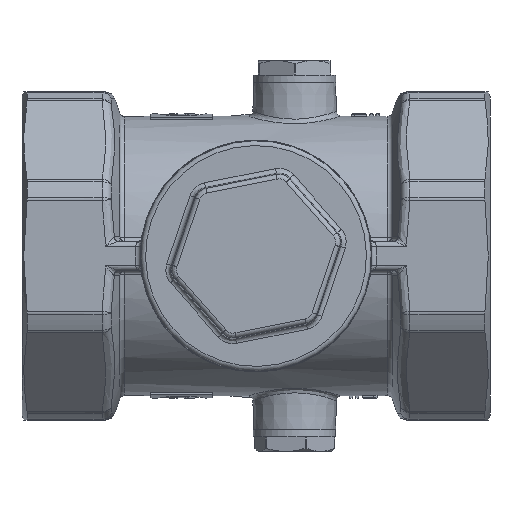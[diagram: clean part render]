
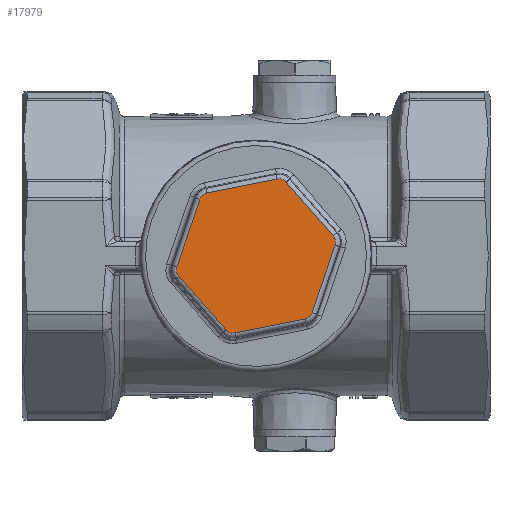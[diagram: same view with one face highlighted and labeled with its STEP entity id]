
A CAD part, front view. The second image highlights one B-rep face of the part: STEP entity #17979.
In plain terms, the highlighted planar face has unit normal (0, -1, 0).
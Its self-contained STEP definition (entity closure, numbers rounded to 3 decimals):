
#145=ELLIPSE('',#19668,2.002,2.);
#148=ELLIPSE('',#19672,2.002,2.);
#149=ELLIPSE('',#19678,2.002,2.);
#152=ELLIPSE('',#19682,2.002,2.);
#153=ELLIPSE('',#19688,2.002,2.);
#156=ELLIPSE('',#19692,2.002,2.);
#1762=LINE('',#40264,#2900);
#1764=LINE('',#40332,#2902);
#1767=LINE('',#40339,#2905);
#1768=LINE('',#40404,#2906);
#1771=LINE('',#40411,#2909);
#1773=LINE('',#40474,#2911);
#2900=VECTOR('',#24129,10.);
#2902=VECTOR('',#24149,10.);
#2905=VECTOR('',#24156,10.);
#2906=VECTOR('',#24173,10.);
#2909=VECTOR('',#24180,10.);
#2911=VECTOR('',#24196,10.);
#3494=PLANE('',#19703);
#4809=FACE_OUTER_BOUND('',#5927,.T.);
#5927=EDGE_LOOP('',(#16753,#16754,#16755,#16756,#16757,#16758,#16759,#16760,
#16761,#16762,#16763,#16764));
#8877=VERTEX_POINT('',#40261);
#8878=VERTEX_POINT('',#40263);
#8881=VERTEX_POINT('',#40294);
#8882=VERTEX_POINT('',#40323);
#8885=VERTEX_POINT('',#40330);
#8886=VERTEX_POINT('',#40335);
#8889=VERTEX_POINT('',#40366);
#8890=VERTEX_POINT('',#40395);
#8893=VERTEX_POINT('',#40402);
#8894=VERTEX_POINT('',#40407);
#8897=VERTEX_POINT('',#40438);
#8898=VERTEX_POINT('',#40467);
#11484=EDGE_CURVE('',#8877,#8878,#1762,.T.);
#11488=EDGE_CURVE('',#8881,#8877,#145,.T.);
#11492=EDGE_CURVE('',#8878,#8882,#148,.T.);
#11494=EDGE_CURVE('',#8885,#8881,#1764,.T.);
#11498=EDGE_CURVE('',#8882,#8886,#1767,.T.);
#11500=EDGE_CURVE('',#8889,#8885,#149,.T.);
#11504=EDGE_CURVE('',#8886,#8890,#152,.T.);
#11506=EDGE_CURVE('',#8893,#8889,#1768,.T.);
#11510=EDGE_CURVE('',#8890,#8894,#1771,.T.);
#11512=EDGE_CURVE('',#8897,#8893,#153,.T.);
#11516=EDGE_CURVE('',#8894,#8898,#156,.T.);
#11518=EDGE_CURVE('',#8898,#8897,#1773,.T.);
#16753=ORIENTED_EDGE('',*,*,#11484,.F.);
#16754=ORIENTED_EDGE('',*,*,#11488,.F.);
#16755=ORIENTED_EDGE('',*,*,#11494,.F.);
#16756=ORIENTED_EDGE('',*,*,#11500,.F.);
#16757=ORIENTED_EDGE('',*,*,#11506,.F.);
#16758=ORIENTED_EDGE('',*,*,#11512,.F.);
#16759=ORIENTED_EDGE('',*,*,#11518,.F.);
#16760=ORIENTED_EDGE('',*,*,#11516,.F.);
#16761=ORIENTED_EDGE('',*,*,#11510,.F.);
#16762=ORIENTED_EDGE('',*,*,#11504,.F.);
#16763=ORIENTED_EDGE('',*,*,#11498,.F.);
#16764=ORIENTED_EDGE('',*,*,#11492,.F.);
#17979=ADVANCED_FACE('',(#4809),#3494,.F.);
#19668=AXIS2_PLACEMENT_3D('',#40296,#24135,#24136);
#19672=AXIS2_PLACEMENT_3D('',#40327,#24143,#24144);
#19678=AXIS2_PLACEMENT_3D('',#40368,#24159,#24160);
#19682=AXIS2_PLACEMENT_3D('',#40399,#24167,#24168);
#19688=AXIS2_PLACEMENT_3D('',#40440,#24183,#24184);
#19692=AXIS2_PLACEMENT_3D('',#40471,#24191,#24192);
#19703=AXIS2_PLACEMENT_3D('',#40501,#24225,#24226);
#24129=DIRECTION('',(-0.981,0.,-0.195));
#24135=DIRECTION('center_axis',(0.,1.,0.));
#24136=DIRECTION('ref_axis',(0.659,0.,-0.752));
#24143=DIRECTION('center_axis',(0.,1.,0.));
#24144=DIRECTION('ref_axis',(-0.321,0.,-0.947));
#24149=DIRECTION('',(-0.321,0.,-0.947));
#24156=DIRECTION('',(-0.659,0.,0.752));
#24159=DIRECTION('center_axis',(0.,1.,0.));
#24160=DIRECTION('ref_axis',(0.981,0.,0.195));
#24167=DIRECTION('center_axis',(0.,1.,0.));
#24168=DIRECTION('ref_axis',(-0.981,0.,-0.195));
#24173=DIRECTION('',(0.659,0.,-0.752));
#24180=DIRECTION('',(0.321,0.,0.947));
#24183=DIRECTION('center_axis',(0.,1.,0.));
#24184=DIRECTION('ref_axis',(0.321,0.,0.947));
#24191=DIRECTION('center_axis',(0.,1.,0.));
#24192=DIRECTION('ref_axis',(-0.659,0.,0.752));
#24196=DIRECTION('',(0.981,0.,0.195));
#24225=DIRECTION('center_axis',(0.,1.,0.));
#24226=DIRECTION('ref_axis',(0.752,0.,0.659));
#40261=CARTESIAN_POINT('',(10.129,-48.,-13.064));
#40263=CARTESIAN_POINT('',(-4.356,-48.,-15.947));
#40264=CARTESIAN_POINT('',(7.417,-48.,-13.604));
#40294=CARTESIAN_POINT('',(11.632,-48.,-11.746));
#40296=CARTESIAN_POINT('Origin',(9.737,-48.,-11.102));
#40323=CARTESIAN_POINT('',(-6.249,-48.,-15.304));
#40327=CARTESIAN_POINT('Origin',(-4.746,-48.,-13.984));
#40330=CARTESIAN_POINT('',(16.379,-48.,2.24));
#40332=CARTESIAN_POINT('',(15.49,-48.,-0.379));
#40335=CARTESIAN_POINT('',(-15.988,-48.,-4.201));
#40339=CARTESIAN_POINT('',(-8.073,-48.,-13.225));
#40366=CARTESIAN_POINT('',(15.988,-48.,4.201));
#40368=CARTESIAN_POINT('Origin',(14.483,-48.,2.882));
#40395=CARTESIAN_POINT('',(-16.379,-48.,-2.24));
#40399=CARTESIAN_POINT('Origin',(-14.483,-48.,-2.882));
#40402=CARTESIAN_POINT('',(6.249,-48.,15.304));
#40404=CARTESIAN_POINT('',(8.073,-48.,13.225));
#40407=CARTESIAN_POINT('',(-11.632,-48.,11.746));
#40411=CARTESIAN_POINT('',(-15.49,-48.,0.379));
#40438=CARTESIAN_POINT('',(4.356,-48.,15.947));
#40440=CARTESIAN_POINT('Origin',(4.746,-48.,13.984));
#40467=CARTESIAN_POINT('',(-10.129,-48.,13.064));
#40471=CARTESIAN_POINT('Origin',(-9.737,-48.,11.102));
#40474=CARTESIAN_POINT('',(-7.417,-48.,13.604));
#40501=CARTESIAN_POINT('Origin',(0.,-48.,0.));
